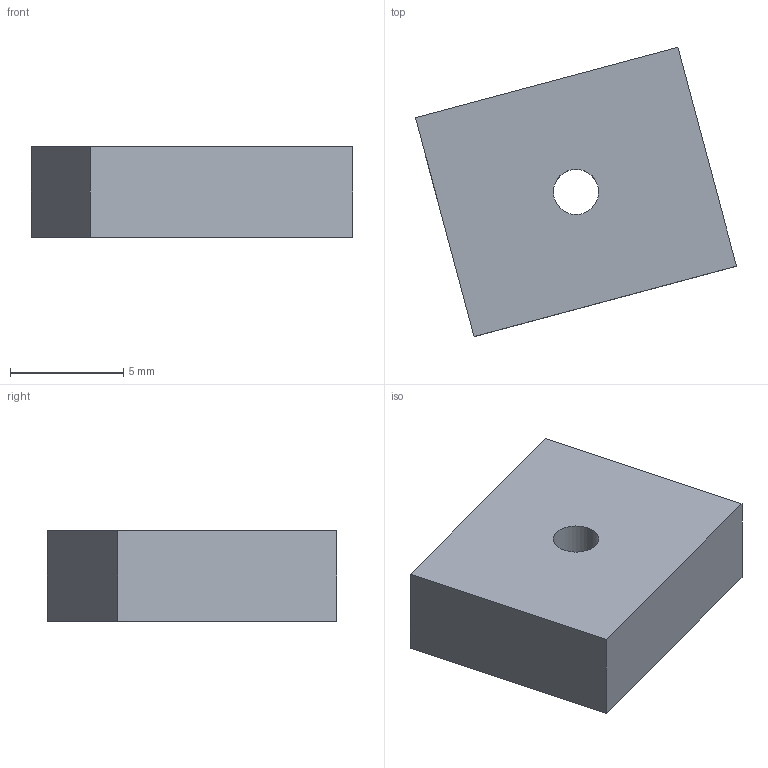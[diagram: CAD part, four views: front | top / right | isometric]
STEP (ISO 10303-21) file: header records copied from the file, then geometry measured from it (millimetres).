
FILE_DESCRIPTION(('Open CASCADE Model'),'2;1');
FILE_NAME('Open CASCADE Shape Model','2000-01-01T00:00:00',('Author'),( 'Open CASCADE'),'Open CASCADE STEP processor 7.9','Open CASCADE 7.9' ,'Unknown');
FILE_SCHEMA(('AUTOMOTIVE_DESIGN { 1 0 10303 214 1 1 1 1 }'));
Length unit declared in the file: millimetre
Products named in the file (1): Open CASCADE STEP translator 7.9 1
Bounding box: 14.18 x 12.77 x 4 mm (x, y, z)
Volume: 467.4 mm3; surface area: 434.8 mm2
Topology: 1 solids, 1 shells, 7 faces, 15 edges, 10 vertices
Faces by surface type: plane 6, cylinder 1
Full cylindrical faces by diameter (mm): 2 x1
Entity records: 400 total; most frequent: CARTESIAN_POINT 63, DIRECTION 63, LINE 41, VECTOR 41, ORIENTED_EDGE 30, PCURVE 30, DEFINITIONAL_REPRESENTATION 30, EDGE_CURVE 15
